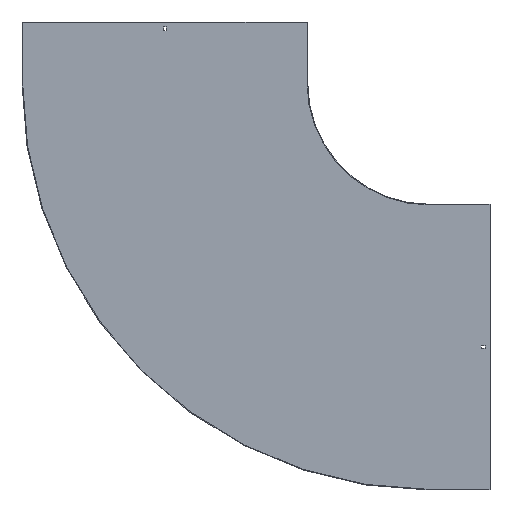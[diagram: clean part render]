
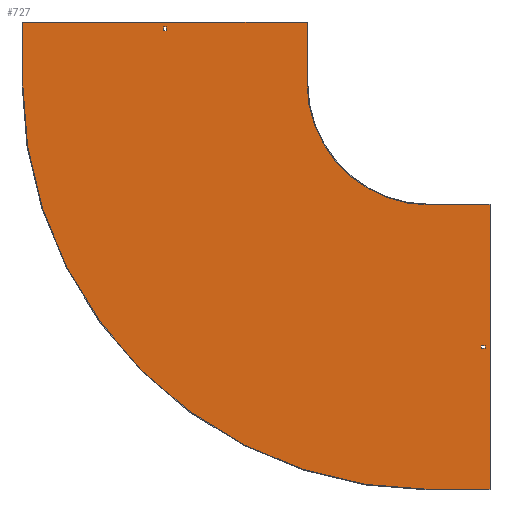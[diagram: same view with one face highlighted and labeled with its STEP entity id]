
A CAD part, front view. The second image highlights one B-rep face of the part: STEP entity #727.
In plain terms, the highlighted planar face has unit normal (0, -1, 0).
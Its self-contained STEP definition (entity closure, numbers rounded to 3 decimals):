
#9 = LINE ( 'NONE', #557, #379 ) ;
#15 = LINE ( 'NONE', #729, #343 ) ;
#17 = VERTEX_POINT ( 'NONE', #769 ) ;
#27 = LINE ( 'NONE', #491, #175 ) ;
#31 = DIRECTION ( 'NONE',  ( 0., 0., -1. ) ) ;
#37 = DIRECTION ( 'NONE',  ( 0., 0., -1. ) ) ;
#38 = ORIENTED_EDGE ( 'NONE', *, *, #289, .F. ) ;
#44 = DIRECTION ( 'NONE',  ( 0., 1., 0. ) ) ;
#45 = EDGE_LOOP ( 'NONE', ( #404, #705, #855, #377 ) ) ;
#46 = DIRECTION ( 'NONE',  ( 0., 0., -1. ) ) ;
#49 = LINE ( 'NONE', #109, #677 ) ;
#58 = VECTOR ( 'NONE', #327, 1000. ) ;
#67 = CARTESIAN_POINT ( 'NONE',  ( 138., -1.5, 0. ) ) ;
#75 = CARTESIAN_POINT ( 'NONE',  ( -300., -1.5, 150. ) ) ;
#76 = CARTESIAN_POINT ( 'NONE',  ( 0., -1.5, -300. ) ) ;
#85 = ORIENTED_EDGE ( 'NONE', *, *, #239, .F. ) ;
#86 = EDGE_CURVE ( 'NONE', #478, #673, #122, .T. ) ;
#92 = LINE ( 'NONE', #104, #431 ) ;
#104 = CARTESIAN_POINT ( 'NONE',  ( 0., -1.5, -300. ) ) ;
#109 = CARTESIAN_POINT ( 'NONE',  ( 0., -1.5, 138. ) ) ;
#110 = AXIS2_PLACEMENT_3D ( 'NONE', #638, #44, #31 ) ;
#113 = FACE_BOUND ( 'NONE', #45, .T. ) ;
#119 = EDGE_CURVE ( 'NONE', #688, #844, #15, .T. ) ;
#122 = LINE ( 'NONE', #464, #773 ) ;
#131 = VERTEX_POINT ( 'NONE', #652 ) ;
#133 = EDGE_LOOP ( 'NONE', ( #270, #602, #592, #372 ) ) ;
#136 = CARTESIAN_POINT ( 'NONE',  ( -1000., -1.5, 0. ) ) ;
#138 = CARTESIAN_POINT ( 'NONE',  ( 150., -1.5, -298.5 ) ) ;
#156 = CARTESIAN_POINT ( 'NONE',  ( 138., -1.5, -646.75 ) ) ;
#158 = LINE ( 'NONE', #497, #825 ) ;
#159 = DIRECTION ( 'NONE',  ( -1., 0., 0. ) ) ;
#172 = DIRECTION ( 'NONE',  ( 0., 0., -1. ) ) ;
#174 = CARTESIAN_POINT ( 'NONE',  ( -300., -1.5, 0. ) ) ;
#175 = VECTOR ( 'NONE', #159, 1000. ) ;
#183 = EDGE_CURVE ( 'NONE', #861, #478, #158, .T. ) ;
#188 = CARTESIAN_POINT ( 'NONE',  ( -1000., -1.5, 0. ) ) ;
#195 = EDGE_CURVE ( 'NONE', #673, #286, #49, .T. ) ;
#215 = EDGE_CURVE ( 'NONE', #131, #619, #707, .T. ) ;
#229 = CARTESIAN_POINT ( 'NONE',  ( 150., -1.5, -1000. ) ) ;
#234 = VERTEX_POINT ( 'NONE', #156 ) ;
#239 = EDGE_CURVE ( 'NONE', #777, #131, #563, .T. ) ;
#248 = CARTESIAN_POINT ( 'NONE',  ( -646.75, -1.5, 129. ) ) ;
#269 = DIRECTION ( 'NONE',  ( 1., 0., 0. ) ) ;
#270 = ORIENTED_EDGE ( 'NONE', *, *, #195, .T. ) ;
#276 = CARTESIAN_POINT ( 'NONE',  ( -300., -1.5, 150. ) ) ;
#279 = ORIENTED_EDGE ( 'NONE', *, *, #849, .F. ) ;
#286 = VERTEX_POINT ( 'NONE', #295 ) ;
#289 = EDGE_CURVE ( 'NONE', #581, #762, #92, .T. ) ;
#295 = CARTESIAN_POINT ( 'NONE',  ( -646.75, -1.5, 138. ) ) ;
#296 = EDGE_CURVE ( 'NONE', #286, #861, #356, .T. ) ;
#304 = VECTOR ( 'NONE', #335, 1000. ) ;
#306 = VERTEX_POINT ( 'NONE', #716 ) ;
#327 = DIRECTION ( 'NONE',  ( 0., 0., 1. ) ) ;
#328 = VECTOR ( 'NONE', #172, 1000. ) ;
#335 = DIRECTION ( 'NONE',  ( 0., 0., -1. ) ) ;
#343 = VECTOR ( 'NONE', #532, 1000. ) ;
#356 = LINE ( 'NONE', #770, #328 ) ;
#372 = ORIENTED_EDGE ( 'NONE', *, *, #86, .T. ) ;
#377 = ORIENTED_EDGE ( 'NONE', *, *, #119, .F. ) ;
#379 = VECTOR ( 'NONE', #822, 1000. ) ;
#381 = EDGE_CURVE ( 'NONE', #17, #397, #9, .T. ) ;
#383 = VECTOR ( 'NONE', #637, 1000. ) ;
#386 = DIRECTION ( 'NONE',  ( 0., 0., 1. ) ) ;
#388 = ORIENTED_EDGE ( 'NONE', *, *, #485, .F. ) ;
#394 = VECTOR ( 'NONE', #269, 1000. ) ;
#396 = DIRECTION ( 'NONE',  ( 0., 0., -1. ) ) ;
#397 = VERTEX_POINT ( 'NONE', #276 ) ;
#398 = LINE ( 'NONE', #75, #304 ) ;
#403 = CARTESIAN_POINT ( 'NONE',  ( 0., -1.5, -653.25 ) ) ;
#404 = ORIENTED_EDGE ( 'NONE', *, *, #646, .F. ) ;
#411 = EDGE_CURVE ( 'NONE', #844, #306, #552, .T. ) ;
#419 = EDGE_CURVE ( 'NONE', #762, #777, #735, .T. ) ;
#420 = CARTESIAN_POINT ( 'NONE',  ( 129., -1.5, -646.75 ) ) ;
#426 = DIRECTION ( 'NONE',  ( 0., -1., 0. ) ) ;
#428 = ORIENTED_EDGE ( 'NONE', *, *, #215, .F. ) ;
#431 = VECTOR ( 'NONE', #627, 1000. ) ;
#439 = CARTESIAN_POINT ( 'NONE',  ( -653.25, -1.5, 129. ) ) ;
#464 = CARTESIAN_POINT ( 'NONE',  ( -653.25, -1.5, 0. ) ) ;
#478 = VERTEX_POINT ( 'NONE', #439 ) ;
#485 = EDGE_CURVE ( 'NONE', #662, #581, #692, .T. ) ;
#491 = CARTESIAN_POINT ( 'NONE',  ( 0., -1.5, -646.75 ) ) ;
#495 = DIRECTION ( 'NONE',  ( -1., 0., 0. ) ) ;
#497 = CARTESIAN_POINT ( 'NONE',  ( 0., -1.5, 129. ) ) ;
#511 = VECTOR ( 'NONE', #495, 1000. ) ;
#532 = DIRECTION ( 'NONE',  ( 0., 0., -1. ) ) ;
#548 = CARTESIAN_POINT ( 'NONE',  ( 129., -1.5, -653.25 ) ) ;
#550 = AXIS2_PLACEMENT_3D ( 'NONE', #572, #426, #37 ) ;
#552 = LINE ( 'NONE', #403, #394 ) ;
#557 = CARTESIAN_POINT ( 'NONE',  ( -1001.5, -1.5, 150. ) ) ;
#559 = CARTESIAN_POINT ( 'NONE',  ( 150., -1.5, -1000. ) ) ;
#563 = LINE ( 'NONE', #229, #511 ) ;
#568 = DIRECTION ( 'NONE',  ( -1., 0., 0. ) ) ;
#572 = CARTESIAN_POINT ( 'NONE',  ( 0., -1.5, 0. ) ) ;
#573 = DIRECTION ( 'NONE',  ( 1., 0., 0. ) ) ;
#579 = EDGE_CURVE ( 'NONE', #306, #234, #658, .T. ) ;
#581 = VERTEX_POINT ( 'NONE', #76 ) ;
#584 = PLANE ( 'NONE',  #625 ) ;
#592 = ORIENTED_EDGE ( 'NONE', *, *, #183, .T. ) ;
#595 = ORIENTED_EDGE ( 'NONE', *, *, #834, .F. ) ;
#597 = DIRECTION ( 'NONE',  ( 0., -1., 0. ) ) ;
#601 = ORIENTED_EDGE ( 'NONE', *, *, #381, .F. ) ;
#602 = ORIENTED_EDGE ( 'NONE', *, *, #296, .T. ) ;
#619 = VERTEX_POINT ( 'NONE', #136 ) ;
#625 = AXIS2_PLACEMENT_3D ( 'NONE', #713, #597, #46 ) ;
#627 = DIRECTION ( 'NONE',  ( 1., 0., 0. ) ) ;
#637 = DIRECTION ( 'NONE',  ( 0., 0., 1. ) ) ;
#638 = CARTESIAN_POINT ( 'NONE',  ( 0., -1.5, 0. ) ) ;
#641 = FACE_OUTER_BOUND ( 'NONE', #829, .T. ) ;
#646 = EDGE_CURVE ( 'NONE', #234, #688, #27, .T. ) ;
#652 = CARTESIAN_POINT ( 'NONE',  ( 0., -1.5, -1000. ) ) ;
#658 = LINE ( 'NONE', #67, #58 ) ;
#662 = VERTEX_POINT ( 'NONE', #174 ) ;
#673 = VERTEX_POINT ( 'NONE', #697 ) ;
#677 = VECTOR ( 'NONE', #573, 1000. ) ;
#679 = VECTOR ( 'NONE', #396, 1000. ) ;
#688 = VERTEX_POINT ( 'NONE', #420 ) ;
#692 = CIRCLE ( 'NONE', #550, 300. ) ;
#697 = CARTESIAN_POINT ( 'NONE',  ( -653.25, -1.5, 138. ) ) ;
#705 = ORIENTED_EDGE ( 'NONE', *, *, #579, .F. ) ;
#707 = CIRCLE ( 'NONE', #110, 1000. ) ;
#713 = CARTESIAN_POINT ( 'NONE',  ( 0., -1.5, 0. ) ) ;
#716 = CARTESIAN_POINT ( 'NONE',  ( 138., -1.5, -653.25 ) ) ;
#727 = ADVANCED_FACE ( 'NONE', ( #113, #641, #738 ), #584, .T. ) ;
#729 = CARTESIAN_POINT ( 'NONE',  ( 129., -1.5, 0. ) ) ;
#735 = LINE ( 'NONE', #138, #679 ) ;
#738 = FACE_BOUND ( 'NONE', #133, .T. ) ;
#743 = CARTESIAN_POINT ( 'NONE',  ( 150., -1.5, -300. ) ) ;
#762 = VERTEX_POINT ( 'NONE', #743 ) ;
#766 = LINE ( 'NONE', #188, #383 ) ;
#769 = CARTESIAN_POINT ( 'NONE',  ( -1000., -1.5, 150. ) ) ;
#770 = CARTESIAN_POINT ( 'NONE',  ( -646.75, -1.5, 0. ) ) ;
#773 = VECTOR ( 'NONE', #386, 1000. ) ;
#777 = VERTEX_POINT ( 'NONE', #559 ) ;
#822 = DIRECTION ( 'NONE',  ( 1., 0., 0. ) ) ;
#825 = VECTOR ( 'NONE', #568, 1000. ) ;
#829 = EDGE_LOOP ( 'NONE', ( #601, #279, #428, #85, #858, #38, #388, #595 ) ) ;
#834 = EDGE_CURVE ( 'NONE', #397, #662, #398, .T. ) ;
#844 = VERTEX_POINT ( 'NONE', #548 ) ;
#849 = EDGE_CURVE ( 'NONE', #619, #17, #766, .T. ) ;
#855 = ORIENTED_EDGE ( 'NONE', *, *, #411, .F. ) ;
#858 = ORIENTED_EDGE ( 'NONE', *, *, #419, .F. ) ;
#861 = VERTEX_POINT ( 'NONE', #248 ) ;
